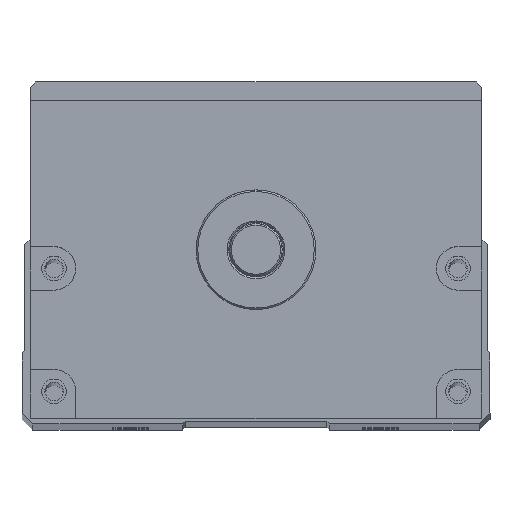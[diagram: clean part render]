
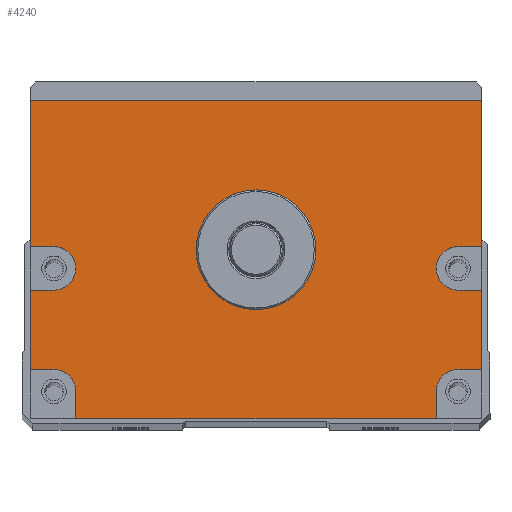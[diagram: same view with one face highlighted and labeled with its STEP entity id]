
A CAD part, top view. The second image highlights one B-rep face of the part: STEP entity #4240.
In plain terms, the highlighted planar face has unit normal (0, 0, 1).
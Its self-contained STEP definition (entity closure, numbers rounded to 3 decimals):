
#3627=FACE_BOUND('',#5746,.T.);
#3628=FACE_BOUND('',#5747,.T.);
#4240=ADVANCED_FACE('',(#3627,#3628),#4670,.T.);
#4670=PLANE('',#13878);
#5746=EDGE_LOOP('',(#9368,#9369,#9370,#9371,#9372,#9373,#9374,#9375,#9376,
#9377,#9378,#9379,#9380,#9381,#9382,#9383,#9384,#9385));
#5747=EDGE_LOOP('',(#9386));
#6570=LINE('',#27864,#7244);
#6572=LINE('',#27872,#7246);
#6573=LINE('',#27875,#7247);
#6574=LINE('',#27877,#7248);
#6575=LINE('',#27881,#7249);
#6576=LINE('',#27883,#7250);
#6577=LINE('',#27884,#7251);
#6578=LINE('',#27886,#7252);
#6579=LINE('',#27890,#7253);
#6580=LINE('',#27892,#7254);
#6581=LINE('',#27894,#7255);
#6582=LINE('',#27898,#7256);
#6583=LINE('',#27900,#7257);
#6584=LINE('',#27902,#7258);
#7244=VECTOR('',#16092,1.);
#7246=VECTOR('',#16100,1.);
#7247=VECTOR('',#16101,1.);
#7248=VECTOR('',#16102,1.);
#7249=VECTOR('',#16105,1.);
#7250=VECTOR('',#16106,1.);
#7251=VECTOR('',#16107,1.);
#7252=VECTOR('',#16108,1.);
#7253=VECTOR('',#16111,1.);
#7254=VECTOR('',#16112,1.);
#7255=VECTOR('',#16113,1.);
#7256=VECTOR('',#16116,1.);
#7257=VECTOR('',#16117,1.);
#7258=VECTOR('',#16118,1.);
#9368=ORIENTED_EDGE('',*,*,#12298,.F.);
#9369=ORIENTED_EDGE('',*,*,#12299,.T.);
#9370=ORIENTED_EDGE('',*,*,#12300,.F.);
#9371=ORIENTED_EDGE('',*,*,#12301,.F.);
#9372=ORIENTED_EDGE('',*,*,#12302,.F.);
#9373=ORIENTED_EDGE('',*,*,#12303,.T.);
#9374=ORIENTED_EDGE('',*,*,#12294,.T.);
#9375=ORIENTED_EDGE('',*,*,#12304,.T.);
#9376=ORIENTED_EDGE('',*,*,#12305,.F.);
#9377=ORIENTED_EDGE('',*,*,#12306,.F.);
#9378=ORIENTED_EDGE('',*,*,#12307,.F.);
#9379=ORIENTED_EDGE('',*,*,#12308,.T.);
#9380=ORIENTED_EDGE('',*,*,#12309,.F.);
#9381=ORIENTED_EDGE('',*,*,#12310,.F.);
#9382=ORIENTED_EDGE('',*,*,#12311,.F.);
#9383=ORIENTED_EDGE('',*,*,#12312,.T.);
#9384=ORIENTED_EDGE('',*,*,#12313,.F.);
#9385=ORIENTED_EDGE('',*,*,#12314,.F.);
#9386=ORIENTED_EDGE('',*,*,#12280,.T.);
#10981=VERTEX_POINT('',#27835);
#10994=VERTEX_POINT('',#27863);
#10995=VERTEX_POINT('',#27865);
#10998=VERTEX_POINT('',#27873);
#10999=VERTEX_POINT('',#27874);
#11000=VERTEX_POINT('',#27876);
#11001=VERTEX_POINT('',#27878);
#11002=VERTEX_POINT('',#27880);
#11003=VERTEX_POINT('',#27882);
#11004=VERTEX_POINT('',#27885);
#11005=VERTEX_POINT('',#27887);
#11006=VERTEX_POINT('',#27889);
#11007=VERTEX_POINT('',#27891);
#11008=VERTEX_POINT('',#27893);
#11009=VERTEX_POINT('',#27895);
#11010=VERTEX_POINT('',#27897);
#11011=VERTEX_POINT('',#27899);
#11012=VERTEX_POINT('',#27901);
#11013=VERTEX_POINT('',#27903);
#12280=EDGE_CURVE('',#10981,#10981,#13019,.T.);
#12294=EDGE_CURVE('',#10995,#10994,#6570,.T.);
#12298=EDGE_CURVE('',#10998,#10999,#6572,.T.);
#12299=EDGE_CURVE('',#10998,#11000,#6573,.T.);
#12300=EDGE_CURVE('',#11001,#11000,#6574,.T.);
#12301=EDGE_CURVE('',#11002,#11001,#13030,.T.);
#12302=EDGE_CURVE('',#11003,#11002,#6575,.T.);
#12303=EDGE_CURVE('',#11003,#10995,#6576,.T.);
#12304=EDGE_CURVE('',#10994,#11004,#6577,.T.);
#12305=EDGE_CURVE('',#11005,#11004,#6578,.T.);
#12306=EDGE_CURVE('',#11006,#11005,#13031,.T.);
#12307=EDGE_CURVE('',#11007,#11006,#6579,.T.);
#12308=EDGE_CURVE('',#11007,#11008,#6580,.T.);
#12309=EDGE_CURVE('',#11009,#11008,#6581,.T.);
#12310=EDGE_CURVE('',#11010,#11009,#13032,.T.);
#12311=EDGE_CURVE('',#11011,#11010,#6582,.T.);
#12312=EDGE_CURVE('',#11011,#11012,#6583,.T.);
#12313=EDGE_CURVE('',#11013,#11012,#6584,.T.);
#12314=EDGE_CURVE('',#10999,#11013,#13033,.T.);
#13019=CIRCLE('',#13860,11.);
#13030=CIRCLE('',#13874,4.);
#13031=CIRCLE('',#13875,4.);
#13032=CIRCLE('',#13876,4.);
#13033=CIRCLE('',#13877,4.);
#13860=AXIS2_PLACEMENT_3D('',#27834,#16065,#16066);
#13874=AXIS2_PLACEMENT_3D('',#27879,#16103,#16104);
#13875=AXIS2_PLACEMENT_3D('',#27888,#16109,#16110);
#13876=AXIS2_PLACEMENT_3D('',#27896,#16114,#16115);
#13877=AXIS2_PLACEMENT_3D('',#27904,#16119,#16120);
#13878=AXIS2_PLACEMENT_3D('',#27905,#16121,#16122);
#16065=DIRECTION('',(0.,0.,-1.));
#16066=DIRECTION('',(1.,0.,0.));
#16092=DIRECTION('',(-1.,0.,0.));
#16100=DIRECTION('',(-1.,0.,0.));
#16101=DIRECTION('',(0.,1.,0.));
#16102=DIRECTION('',(1.,0.,0.));
#16103=DIRECTION('',(0.,0.,1.));
#16104=DIRECTION('',(1.,0.,0.));
#16105=DIRECTION('',(-1.,0.,0.));
#16106=DIRECTION('',(0.,1.,0.));
#16107=DIRECTION('',(0.,-1.,0.));
#16108=DIRECTION('',(-1.,0.,0.));
#16109=DIRECTION('',(0.,0.,1.));
#16110=DIRECTION('',(1.,0.,0.));
#16111=DIRECTION('',(1.,0.,0.));
#16112=DIRECTION('',(0.,-1.,0.));
#16113=DIRECTION('',(-1.,0.,0.));
#16114=DIRECTION('',(0.,0.,1.));
#16115=DIRECTION('',(1.,0.,0.));
#16116=DIRECTION('',(0.,1.,0.));
#16117=DIRECTION('',(1.,0.,0.));
#16118=DIRECTION('',(0.,-1.,0.));
#16119=DIRECTION('',(0.,0.,1.));
#16120=DIRECTION('',(1.,0.,0.));
#16121=DIRECTION('',(0.,0.,1.));
#16122=DIRECTION('',(1.,0.,0.));
#27834=CARTESIAN_POINT('',(300.,0.,482.5));
#27835=CARTESIAN_POINT('',(311.,0.,482.5));
#27863=CARTESIAN_POINT('',(258.5,27.5,482.5));
#27864=CARTESIAN_POINT('',(341.5,27.5,482.5));
#27865=CARTESIAN_POINT('',(341.5,27.5,482.5));
#27872=CARTESIAN_POINT('',(341.5,-22.,482.5));
#27873=CARTESIAN_POINT('',(341.5,-22.,482.5));
#27874=CARTESIAN_POINT('',(337.115,-22.,482.5));
#27875=CARTESIAN_POINT('',(341.5,-31.,482.5));
#27876=CARTESIAN_POINT('',(341.5,-7.431,482.5));
#27877=CARTESIAN_POINT('',(341.5,-7.431,482.5));
#27878=CARTESIAN_POINT('',(337.115,-7.431,482.5));
#27879=CARTESIAN_POINT('',(337.115,-3.431,482.5));
#27880=CARTESIAN_POINT('',(337.115,0.569,482.5));
#27881=CARTESIAN_POINT('',(341.5,0.569,482.5));
#27882=CARTESIAN_POINT('',(341.5,0.569,482.5));
#27883=CARTESIAN_POINT('',(341.5,-31.,482.5));
#27884=CARTESIAN_POINT('',(258.5,27.5,482.5));
#27885=CARTESIAN_POINT('',(258.5,0.569,482.5));
#27886=CARTESIAN_POINT('',(341.5,0.569,482.5));
#27887=CARTESIAN_POINT('',(262.885,0.569,482.5));
#27888=CARTESIAN_POINT('',(262.885,-3.431,482.5));
#27889=CARTESIAN_POINT('',(262.885,-7.431,482.5));
#27890=CARTESIAN_POINT('',(341.5,-7.431,482.5));
#27891=CARTESIAN_POINT('',(258.5,-7.431,482.5));
#27892=CARTESIAN_POINT('',(258.5,27.5,482.5));
#27893=CARTESIAN_POINT('',(258.5,-22.,482.5));
#27894=CARTESIAN_POINT('',(341.5,-22.,482.5));
#27895=CARTESIAN_POINT('',(262.885,-22.,482.5));
#27896=CARTESIAN_POINT('',(262.885,-26.,482.5));
#27897=CARTESIAN_POINT('',(266.885,-26.,482.5));
#27898=CARTESIAN_POINT('',(266.885,-31.,482.5));
#27899=CARTESIAN_POINT('',(266.885,-31.,482.5));
#27900=CARTESIAN_POINT('',(258.5,-31.,482.5));
#27901=CARTESIAN_POINT('',(333.115,-31.,482.5));
#27902=CARTESIAN_POINT('',(333.115,-31.,482.5));
#27903=CARTESIAN_POINT('',(333.115,-26.,482.5));
#27904=CARTESIAN_POINT('',(337.115,-26.,482.5));
#27905=CARTESIAN_POINT('',(341.5,-31.,482.5));
